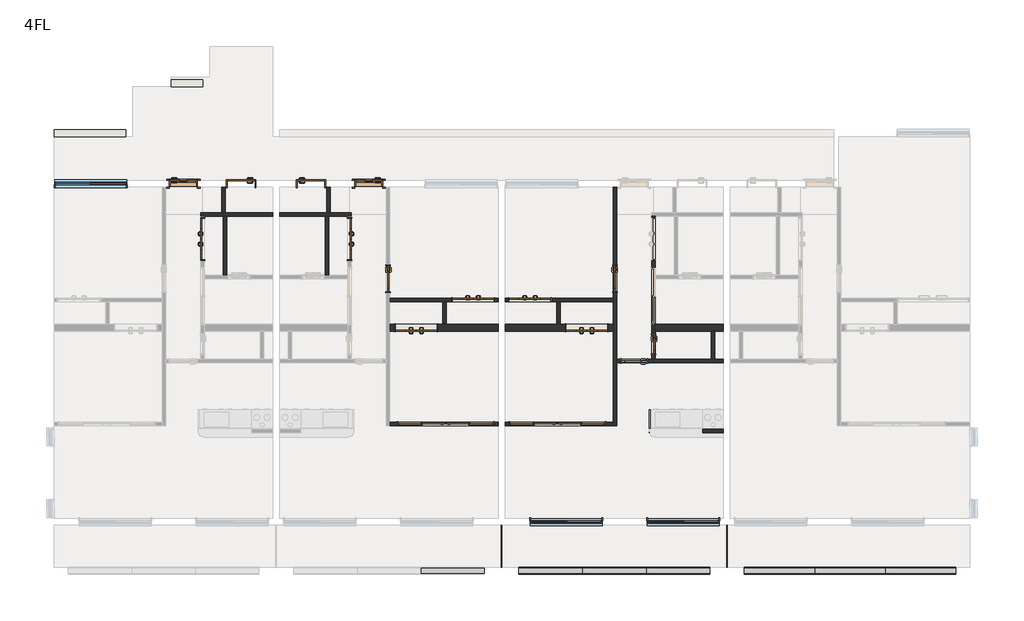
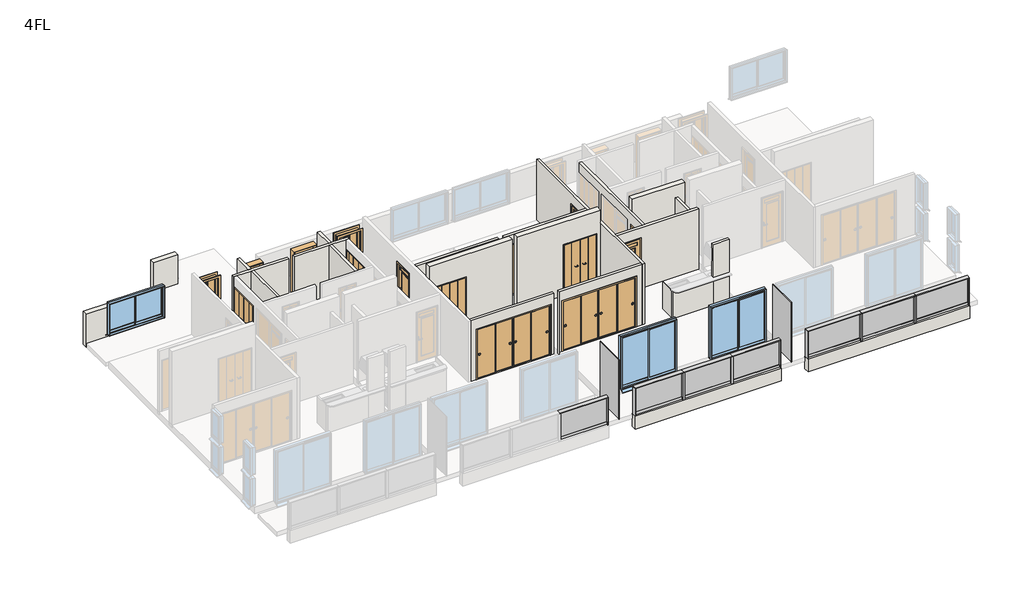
# One storey, part 2 of 3: 26 walls, 16 doors, 16 members, 9 plates, 3 windows.
"""IFC4 building model written with IfcOpenShell, lengths in millimetres."""

from ifc_helpers import new_model, si_unit, frame, origin, place, context, project, spatial, polyline, outline, extrude, faceted_brep, transform, mapped, element, save
from components import door_800x2000_a7d1584b, door_800x2000_010bfebf, w1200h2000_6a144d60, w1200h2000_98cacc9b, w1200h2000_99d19fb3, w1200h2000_ebe1d490, w2800h2000_670b855b, w2800h2000_04aa64cd, w600h2000_7f2747f4, w800h2000_1d97c4d4, w800h2000_13e9f519, w800h2000_ccb03061, w800h2000_0ab7d42c, member_25x150_3f8205e2, member_25x150_f694351b, member_25x150_e95393f9, member_70x150_851c8a9b, plate_9f48129f, plate_365944b3, plate_b830f844, plate_2f85ae4c, plate_cef4847d, window_2000x1200_fc91d1cf, window_2000x2000_f1ff98da

model = new_model("IFC4")

# Units and contexts
model_context = context("Model", 3, world=origin())
ifc_project = project(units=[si_unit("LENGTHUNIT", "METRE", prefix="MILLI")], contexts=[model_context])

# Site, building, storey
site = spatial("IfcSite", under=ifc_project)
building = spatial("IfcBuilding", under=site)
storey = spatial("IfcBuildingStorey", under=building, Name="4FL", Elevation=10000.0)

# Doors
placement = place(None, origin())
door_800x2000_shape = door_800x2000_a7d1584b(model_context)
element("IfcDoor", 1, ObjectType="片開き3 : 800x2000", at=placement, inside=storey, context=model_context, shape_type="MappedRepresentation", body=[
    mapped(door_800x2000_shape, transform((-7378.7187246, -5700.1171638, 10000.0), x_axis=(1.0, 0.0, 0.0), y_axis=(0.0, 1.0, 0.0), z_axis=(0.0, 0.0, 1.0))),
])
door_800x2000_2_shape = door_800x2000_010bfebf(model_context)
element("IfcDoor", 2, ObjectType="片開き3 : 800x2000", at=placement, inside=storey, context=model_context, shape_type="MappedRepresentation", body=[
    mapped(door_800x2000_2_shape, transform((-2078.7187246, -5700.1171638, 10000.0), x_axis=(-1.0, 0.0, 0.0), y_axis=(0.0, -1.0, 0.0), z_axis=(0.0, 0.0, 1.0))),
])
w1200h2000_shape = w1200h2000_6a144d60(model_context)
element("IfcDoor", 3, ObjectType="木製折戸 : w1200h2000", at=placement, inside=storey, context=model_context, shape_type="MappedRepresentation", body=[
    mapped(w1200h2000_shape, transform((-6828.7187246, -7280.1171638, 10100.0), x_axis=(0.0, 1.0, 0.0), y_axis=(-1.0, 0.0, 0.0), z_axis=(0.0, 0.0, 1.0))),
])
element("IfcDoor", 4, ObjectType="木製折戸 : w1200h2000", at=placement, inside=storey, context=model_context, shape_type="MappedRepresentation", body=[
    mapped(w1200h2000_shape, transform((2533.7812754, -9020.1171638, 10100.0), x_axis=(1.0, 0.0, 0.0), y_axis=(0.0, 1.0, 0.0), z_axis=(0.0, 0.0, 1.0))),
])
w1200h2000_2_shape = w1200h2000_98cacc9b(model_context)
element("IfcDoor", 5, ObjectType="木製折戸 : w1200h2000", at=placement, inside=storey, context=model_context, shape_type="MappedRepresentation", body=[
    mapped(w1200h2000_2_shape, transform((4158.7812754, -9820.1171638, 10100.0), x_axis=(-1.0, 0.0, 0.0), y_axis=(0.0, -1.0, 0.0), z_axis=(0.0, 0.0, 1.0))),
])
w1200h2000_3_shape = w1200h2000_99d19fb3(model_context)
element("IfcDoor", 6, ObjectType="木製折戸 : w1200h2000", at=placement, inside=storey, context=model_context, shape_type="MappedRepresentation", body=[
    mapped(w1200h2000_3_shape, transform((908.7812754, -9020.1171638, 10100.0), x_axis=(-1.0, 0.0, 0.0), y_axis=(0.0, -1.0, 0.0), z_axis=(0.0, 0.0, 1.0))),
])
element("IfcDoor", 7, ObjectType="木製折戸 : w1200h2000", at=placement, inside=storey, context=model_context, shape_type="MappedRepresentation", body=[
    mapped(w1200h2000_3_shape, transform((-2628.7187246, -7280.1171638, 10100.0), x_axis=(0.0, 1.0, 0.0), y_axis=(-1.0, 0.0, 0.0), z_axis=(0.0, 0.0, 1.0))),
])
w1200h2000_4_shape = w1200h2000_ebe1d490(model_context)
element("IfcDoor", 8, ObjectType="木製折戸 : w1200h2000", at=placement, inside=storey, context=model_context, shape_type="MappedRepresentation", body=[
    mapped(w1200h2000_4_shape, transform((-716.2187246, -9820.1171638, 10100.0), x_axis=(1.0, 0.0, 0.0), y_axis=(0.0, 1.0, 0.0), z_axis=(0.0, 0.0, 1.0))),
])
w2800h2000_shape = w2800h2000_670b855b(model_context)
element("IfcDoor", 9, ObjectType="引違い 4 枚 2 溝_襖 : w2800h2000", at=placement, inside=storey, context=model_context, shape_type="MappedRepresentation", body=[
    mapped(w2800h2000_shape, transform((3315.7457714, -12570.1171638, 10100.0), x_axis=(-1.0, 0.0, 0.0), y_axis=(0.0, -1.0, 0.0), z_axis=(0.0, 0.0, 1.0))),
])
w2800h2000_2_shape = w2800h2000_04aa64cd(model_context)
element("IfcDoor", 10, ObjectType="引違い 4 枚 2 溝_襖 : w2800h2000", at=placement, inside=storey, context=model_context, shape_type="MappedRepresentation", body=[
    mapped(w2800h2000_2_shape, transform((126.8167793, -12570.1171638, 10100.0), x_axis=(1.0, 0.0, 0.0), y_axis=(0.0, 1.0, 0.0), z_axis=(0.0, 0.0, 1.0))),
])
w600h2000_shape = w600h2000_7f2747f4(model_context)
element("IfcDoor", 11, ObjectType="片開戸CL2058 : w600h2000", at=placement, inside=storey, context=model_context, shape_type="MappedRepresentation", body=[
    mapped(w600h2000_shape, transform((6071.2812754, -10295.1171638, 10100.0), x_axis=(0.0, -1.0, 0.0), y_axis=(1.0, 0.0, 0.0), z_axis=(0.0, 0.0, 1.0))),
])
w800h2000_shape = w800h2000_1d97c4d4(model_context)
element("IfcDoor", 12, ObjectType="片開 : w800h2000", at=placement, inside=storey, context=model_context, shape_type="MappedRepresentation", body=[
    mapped(w800h2000_shape, transform((-5728.7187246, -5700.1171638, 10000.0), x_axis=(-1.0, 0.0, 0.0), y_axis=(0.0, -1.0, 0.0), z_axis=(0.0, 0.0, 1.0))),
])
w800h2000_2_shape = w800h2000_13e9f519(model_context)
element("IfcDoor", 13, ObjectType="片開戸CL2058 : w800h2000", at=placement, inside=storey, context=model_context, shape_type="MappedRepresentation", body=[
    mapped(w800h2000_2_shape, transform((4971.2812754, -8420.1171638, 10100.0), x_axis=(0.0, -1.0, 0.0), y_axis=(1.0, 0.0, 0.0), z_axis=(0.0, 0.0, 1.0))),
])
w800h2000_3_shape = w800h2000_ccb03061(model_context)
element("IfcDoor", 14, ObjectType="片開戸CL2058 : w800h2000", at=placement, inside=storey, context=model_context, shape_type="MappedRepresentation", body=[
    mapped(w800h2000_3_shape, transform((-1528.7187246, -8420.1171638, 10100.0), x_axis=(0.0, -1.0, 0.0), y_axis=(1.0, 0.0, 0.0), z_axis=(0.0, 0.0, 1.0))),
])
element("IfcDoor", 15, ObjectType="片開戸CL2058 : w800h2000", at=placement, inside=storey, context=model_context, shape_type="MappedRepresentation", body=[
    mapped(w800h2000_3_shape, transform((5521.2812754, -10770.1171638, 10100.0), x_axis=(-1.0, 0.0, 0.0), y_axis=(0.0, -1.0, 0.0), z_axis=(0.0, 0.0, 1.0))),
])
w800h2000_4_shape = w800h2000_0ab7d42c(model_context)
element("IfcDoor", 16, ObjectType="片開 : w800h2000", at=placement, inside=storey, context=model_context, shape_type="MappedRepresentation", body=[
    mapped(w800h2000_4_shape, transform((-3728.7187246, -5700.1171638, 10000.0), x_axis=(1.0, 0.0, 0.0), y_axis=(0.0, 1.0, 0.0), z_axis=(0.0, 0.0, 1.0))),
])

# Members
member_25x150_shape = member_25x150_3f8205e2(model_context)
element("IfcMember", 17, ObjectType="長方形のマリオン : 25x150", at=placement, inside=storey, context=model_context, shape_type="MappedRepresentation", body=[
    mapped(member_25x150_shape, transform((1221.2812754, -16770.1171638, 10000.0), x_axis=(1.0, 0.0, 0.0), y_axis=(0.0, -1.0, 0.0), z_axis=(0.0, 0.0, -1.0))),
])
element("IfcMember", 18, ObjectType="長方形のマリオン : 25x150", at=placement, inside=storey, context=model_context, shape_type="MappedRepresentation", body=[
    mapped(member_25x150_shape, transform((7671.2812754, -16770.1171638, 10000.0), x_axis=(1.0, 0.0, 0.0), y_axis=(0.0, -1.0, 0.0), z_axis=(0.0, 0.0, -1.0))),
])
element("IfcMember", 19, ObjectType="長方形のマリオン : 25x150", at=placement, inside=storey, context=model_context, shape_type="MappedRepresentation", body=[
    mapped(member_25x150_shape, transform((14721.2812754, -16770.1171638, 10000.0), x_axis=(1.0, 0.0, 0.0), y_axis=(0.0, -1.0, 0.0), z_axis=(0.0, 0.0, -1.0))),
])
element("IfcMember", 20, ObjectType="長方形のマリオン : 25x150", at=placement, inside=storey, context=model_context, shape_type="MappedRepresentation", body=[
    mapped(member_25x150_shape, transform((2221.2812754, -16770.1171638, 11075.0), x_axis=(-1.0, 0.0, 0.0), y_axis=(0.0, -1.0, 0.0), z_axis=(0.0, 0.0, 1.0))),
])
element("IfcMember", 21, ObjectType="長方形のマリオン : 25x150", at=placement, inside=storey, context=model_context, shape_type="MappedRepresentation", body=[
    mapped(member_25x150_shape, transform((8671.2812754, -16770.1171638, 11075.0), x_axis=(-1.0, 0.0, 0.0), y_axis=(0.0, -1.0, 0.0), z_axis=(0.0, 0.0, 1.0))),
])
member_25x150_2_shape = member_25x150_f694351b(model_context)
element("IfcMember", 22, ObjectType="長方形のマリオン : 25x150", at=placement, inside=storey, context=model_context, shape_type="MappedRepresentation", body=[
    mapped(member_25x150_2_shape, transform((1221.2812754, -16770.1171638, 11100.0), x_axis=(0.0, 0.0, 1.0), y_axis=(0.0, -1.0, 0.0), z_axis=(1.0, 0.0, 0.0))),
])
element("IfcMember", 23, ObjectType="長方形のマリオン : 25x150", at=placement, inside=storey, context=model_context, shape_type="MappedRepresentation", body=[
    mapped(member_25x150_2_shape, transform((7671.2812754, -16770.1171638, 11100.0), x_axis=(0.0, 0.0, 1.0), y_axis=(0.0, -1.0, 0.0), z_axis=(1.0, 0.0, 0.0))),
])
element("IfcMember", 24, ObjectType="長方形のマリオン : 25x150", at=placement, inside=storey, context=model_context, shape_type="MappedRepresentation", body=[
    mapped(member_25x150_2_shape, transform((4037.947942, -16770.1171638, 11100.0), x_axis=(0.0, 0.0, 1.0), y_axis=(0.0, -1.0, 0.0), z_axis=(1.0, 0.0, 0.0))),
])
element("IfcMember", 25, ObjectType="長方形のマリオン : 25x150", at=placement, inside=storey, context=model_context, shape_type="MappedRepresentation", body=[
    mapped(member_25x150_2_shape, transform((5854.6146087, -16770.1171638, 11100.0), x_axis=(0.0, 0.0, 1.0), y_axis=(0.0, -1.0, 0.0), z_axis=(1.0, 0.0, 0.0))),
])
member_25x150_3_shape = member_25x150_e95393f9(model_context)
element("IfcMember", 26, ObjectType="長方形のマリオン : 25x150", at=placement, inside=storey, context=model_context, shape_type="MappedRepresentation", body=[
    mapped(member_25x150_3_shape, transform((14721.2812754, -16770.1171638, 11100.0), x_axis=(0.0, 0.0, 1.0), y_axis=(0.0, -1.0, 0.0), z_axis=(1.0, 0.0, 0.0))),
])
element("IfcMember", 27, ObjectType="長方形のマリオン : 25x150", at=placement, inside=storey, context=model_context, shape_type="MappedRepresentation", body=[
    mapped(member_25x150_3_shape, transform((10687.947942, -16770.1171638, 11100.0), x_axis=(0.0, 0.0, 1.0), y_axis=(0.0, -1.0, 0.0), z_axis=(1.0, 0.0, 0.0))),
])
element("IfcMember", 28, ObjectType="長方形のマリオン : 25x150", at=placement, inside=storey, context=model_context, shape_type="MappedRepresentation", body=[
    mapped(member_25x150_3_shape, transform((12704.6146087, -16770.1171638, 11100.0), x_axis=(0.0, 0.0, 1.0), y_axis=(0.0, -1.0, 0.0), z_axis=(1.0, 0.0, 0.0))),
])
member_70x150_shape = member_70x150_851c8a9b(model_context)
element("IfcMember", 29, ObjectType="長方形のマリオン : 70x150", at=placement, inside=storey, context=model_context, shape_type="MappedRepresentation", body=[
    mapped(member_70x150_shape, transform((4037.947942, -16770.1171638, 10000.0), x_axis=(1.0, 0.0, 0.0), y_axis=(0.0, -1.0, 0.0), z_axis=(0.0, 0.0, -1.0))),
])
element("IfcMember", 30, ObjectType="長方形のマリオン : 70x150", at=placement, inside=storey, context=model_context, shape_type="MappedRepresentation", body=[
    mapped(member_70x150_shape, transform((5854.6146087, -16770.1171638, 10000.0), x_axis=(1.0, 0.0, 0.0), y_axis=(0.0, -1.0, 0.0), z_axis=(0.0, 0.0, -1.0))),
])
element("IfcMember", 31, ObjectType="長方形のマリオン : 70x150", at=placement, inside=storey, context=model_context, shape_type="MappedRepresentation", body=[
    mapped(member_70x150_shape, transform((10687.947942, -16770.1171638, 10000.0), x_axis=(1.0, 0.0, 0.0), y_axis=(0.0, -1.0, 0.0), z_axis=(0.0, 0.0, -1.0))),
])
element("IfcMember", 32, ObjectType="長方形のマリオン : 70x150", at=placement, inside=storey, context=model_context, shape_type="MappedRepresentation", body=[
    mapped(member_70x150_shape, transform((12704.6146087, -16770.1171638, 10000.0), x_axis=(1.0, 0.0, 0.0), y_axis=(0.0, -1.0, 0.0), z_axis=(0.0, 0.0, -1.0))),
])

# Plates
plate_shape = plate_9f48129f(model_context)
element("IfcPlate", 33, ObjectType="r パネル FIX 下框付 : 框 H100", at=placement, inside=storey, context=model_context, shape_type="MappedRepresentation", body=[
    mapped(plate_shape, transform((317.947942, -16770.1171638, 10000.0), x_axis=(1.0, 0.0, 0.0), y_axis=(0.0, 1.0, 0.0), z_axis=(0.0, 0.0, 1.0))),
])
element("IfcPlate", 34, ObjectType="r パネル FIX 下框付 : 框 H100", at=placement, inside=storey, context=model_context, shape_type="MappedRepresentation", body=[
    mapped(plate_shape, transform((3124.6146087, -16770.1171638, 10000.0), x_axis=(1.0, 0.0, 0.0), y_axis=(0.0, 1.0, 0.0), z_axis=(0.0, 0.0, 1.0))),
])
element("IfcPlate", 35, ObjectType="r パネル FIX 下框付 : 框 H100", at=placement, inside=storey, context=model_context, shape_type="MappedRepresentation", body=[
    mapped(plate_shape, transform((6767.947942, -16770.1171638, 10000.0), x_axis=(1.0, 0.0, 0.0), y_axis=(0.0, 1.0, 0.0), z_axis=(0.0, 0.0, 1.0))),
])
plate_2_shape = plate_365944b3(model_context)
element("IfcPlate", 36, ObjectType="r パネル FIX 下框付 : 框 H100", at=placement, inside=storey, context=model_context, shape_type="MappedRepresentation", body=[
    mapped(plate_2_shape, transform((4946.2812754, -16770.1171638, 10000.0), x_axis=(1.0, 0.0, 0.0), y_axis=(0.0, 1.0, 0.0), z_axis=(0.0, 0.0, 1.0))),
])
plate_3_shape = plate_b830f844(model_context)
element("IfcPlate", 37, ObjectType="r パネル FIX 下框付 : 框 H100", at=placement, inside=storey, context=model_context, shape_type="MappedRepresentation", body=[
    mapped(plate_3_shape, transform((9674.6146087, -16770.1171638, 10000.0), x_axis=(1.0, 0.0, 0.0), y_axis=(0.0, 1.0, 0.0), z_axis=(0.0, 0.0, 1.0))),
])
element("IfcPlate", 38, ObjectType="r パネル FIX 下框付 : 框 H100", at=placement, inside=storey, context=model_context, shape_type="MappedRepresentation", body=[
    mapped(plate_3_shape, transform((13717.947942, -16770.1171638, 10000.0), x_axis=(1.0, 0.0, 0.0), y_axis=(0.0, 1.0, 0.0), z_axis=(0.0, 0.0, 1.0))),
])
plate_4_shape = plate_2f85ae4c(model_context)
element("IfcPlate", 39, ObjectType="r パネル FIX 下框付 : 框 H100", at=placement, inside=storey, context=model_context, shape_type="MappedRepresentation", body=[
    mapped(plate_4_shape, transform((11696.2812754, -16770.1171638, 10000.0), x_axis=(1.0, 0.0, 0.0), y_axis=(0.0, 1.0, 0.0), z_axis=(0.0, 0.0, 1.0))),
])
plate_5_shape = plate_cef4847d(model_context)
element("IfcPlate", 40, ObjectType="システム パネル : 標準", at=placement, inside=storey, context=model_context, shape_type="MappedRepresentation", body=[
    mapped(plate_5_shape, transform((1721.2812754, -16070.1171638, 9950.0), x_axis=(0.0, -1.0, 0.0), y_axis=(1.0, 0.0, 0.0), z_axis=(0.0, 0.0, 1.0))),
])
element("IfcPlate", 41, ObjectType="システム パネル : 標準", at=placement, inside=storey, context=model_context, shape_type="MappedRepresentation", body=[
    mapped(plate_5_shape, transform((8171.2812754, -16070.1171638, 9950.0), x_axis=(0.0, -1.0, 0.0), y_axis=(1.0, 0.0, 0.0), z_axis=(0.0, 0.0, 1.0))),
])

# Walls
element("IfcWall", 42, ObjectType="(R)RC200", at=placement, inside=storey, context=model_context, shape_type="Brep", body=[
    faceted_brep([(1621.2812754, -9720.1171638, 10000.0), (146.2812754, -9720.1171638, 10000.0), (46.2812754, -9720.1171638, 10000.0), (-1478.7187246, -9720.1171638, 10000.0), (-1478.7187246, -9720.1171638, 13000.0), (1621.2812754, -9720.1171638, 13000.0), (-96.2187246, -9720.1171638, 12120.0), (-1336.2187246, -9720.1171638, 12120.0), (-1336.2187246, -9720.1171638, 10100.0), (-96.2187246, -9720.1171638, 10100.0), (1621.2812754, -9920.1171638, 10000.0), (1621.2812754, -9920.1171638, 13000.0), (-1478.7187246, -9920.1171638, 13000.0), (-1478.7187246, -9920.1171638, 10000.0), (-96.2187246, -9920.1171638, 12120.0), (-96.2187246, -9920.1171638, 10100.0), (-1336.2187246, -9920.1171638, 10100.0), (-1336.2187246, -9920.1171638, 12120.0)], [[[0, 1, 2, 3, 4, 5], [6, 7, 8, 9]], [[10, 11, 12, 13], [14, 15, 16, 17]], [[3, 2, 1, 0, 10, 13]], [[5, 4, 12, 11]], [[4, 3, 13, 12]], [[15, 14, 6, 9]], [[16, 15, 9, 8]], [[17, 16, 8, 7]], [[14, 17, 7, 6]], [[0, 5, 11, 10]]]),
])
element("IfcWall", 43, ObjectType="(R)RC200", at=placement, inside=storey, context=model_context, shape_type="Brep", body=[
    faceted_brep([(1821.2812754, -9920.1171638, 10000.0), (4921.2812754, -9920.1171638, 10000.0), (4921.2812754, -9920.1171638, 13000.0), (1821.2812754, -9920.1171638, 13000.0), (3538.7812754, -9920.1171638, 12120.0), (4778.7812754, -9920.1171638, 12120.0), (4778.7812754, -9920.1171638, 10100.0), (3538.7812754, -9920.1171638, 10100.0), (1821.2812754, -9720.1171638, 10000.0), (1821.2812754, -9720.1171638, 13000.0), (4921.2812754, -9720.1171638, 13000.0), (4921.2812754, -9720.1171638, 10000.0), (3396.2812754, -9720.1171638, 10000.0), (3296.2812754, -9720.1171638, 10000.0), (3538.7812754, -9720.1171638, 12120.0), (3538.7812754, -9720.1171638, 10100.0), (4778.7812754, -9720.1171638, 10100.0), (4778.7812754, -9720.1171638, 12120.0)], [[[0, 1, 2, 3], [4, 5, 6, 7]], [[8, 9, 10, 11, 12, 13], [14, 15, 16, 17]], [[1, 0, 8, 13, 12, 11]], [[3, 2, 10, 9]], [[2, 1, 11, 10]], [[15, 14, 4, 7]], [[16, 15, 7, 6]], [[17, 16, 6, 5]], [[14, 17, 5, 4]], [[0, 3, 9, 8]]]),
])
element("IfcWall", 44, ObjectType="(R)RC200", at=placement, inside=storey, context=model_context, shape_type="Brep", body=[
    faceted_brep([(6121.2812754, -9920.1171638, 10000.0), (7721.2812754, -9920.1171638, 10000.0), (7821.2812754, -9920.1171638, 10000.0), (8071.2812754, -9920.1171638, 10000.0), (8071.2812754, -9920.1171638, 13000.0), (6121.2812754, -9920.1171638, 13000.0), (6121.2812754, -9720.1171638, 10000.0), (6121.2812754, -9720.1171638, 13000.0), (8071.2812754, -9720.1171638, 13000.0), (8071.2812754, -9720.1171638, 10000.0)], [[[0, 1, 2, 3, 4, 5]], [[6, 7, 8, 9]], [[3, 2, 1, 0, 6, 9]], [[5, 4, 8, 7]], [[0, 5, 7, 6]], [[4, 3, 9, 8]]]),
])
element("IfcWall", 45, ObjectType="(R)RC200", at=placement, inside=storey, context=model_context, shape_type="SweptSolid", body=[
    extrude(outline(polyline([(-9028.7187246, -4350.1171638), (-11078.7187246, -4350.1171638), (-11078.7187246, -4150.1171638), (-9028.7187246, -4150.1171638), (-9028.7187246, -4350.1171638)])), frame((0.0, 0.0, 9800.0), z_axis=(0.0, 0.0, 1.0), x_axis=(1.0, 0.0, 0.0)), (0.0, 0.0, 1.0), 1300.0),
])
element("IfcWall", 46, ObjectType="(R)RC200", at=placement, inside=storey, context=model_context, shape_type="SweptSolid", body=[
    extrude(outline(polyline([(7671.2812754, -16870.1171638), (2221.2812754, -16870.1171638), (2221.2812754, -16670.1171638), (7671.2812754, -16670.1171638), (7671.2812754, -16870.1171638)])), frame((0.0, 0.0, 9500.0), z_axis=(0.0, 0.0, 1.0), x_axis=(1.0, 0.0, 0.0)), (0.0, 0.0, 1.0), 500.0),
])
element("IfcWall", 47, ObjectType="(R)RC200", at=placement, inside=storey, context=model_context, shape_type="SweptSolid", body=[
    extrude(outline(polyline([(14721.2812754, -16870.1171638), (8671.2812754, -16870.1171638), (8671.2812754, -16670.1171638), (14721.2812754, -16670.1171638), (14721.2812754, -16870.1171638)])), frame((0.0, 0.0, 9500.0), z_axis=(0.0, 0.0, 1.0), x_axis=(1.0, 0.0, 0.0)), (0.0, 0.0, 1.0), 500.0),
])
element("IfcWall", 48, ObjectType="(R)RC200", at=placement, inside=storey, context=model_context, shape_type="SweptSolid", body=[
    extrude(outline(polyline([(-6828.7187246, -2920.1171638), (-7728.7187246, -2920.1171638), (-7728.7187246, -2720.1171638), (-6828.7187246, -2720.1171638), (-6828.7187246, -2920.1171638)])), frame((0.0, 0.0, 9950.0), z_axis=(0.0, 0.0, 1.0), x_axis=(1.0, 0.0, 0.0)), (0.0, 0.0, 1.0), 1150.0),
])
element("IfcWall", 49, ObjectType="(F)30", at=placement, inside=storey, context=model_context, shape_type="SweptSolid", body=[
    extrude(outline(polyline([(5948.8875596, -12720.1171638), (5948.8875596, -12165.1171638), (5978.8875596, -12165.1171638), (5978.8875596, -12720.1171638), (5948.8875596, -12720.1171638)])), frame((0.0, 0.0, 10100.0), z_axis=(0.0, 0.0, 1.0), x_axis=(1.0, 0.0, 0.0)), (0.0, 0.0, 1.0), 1060.0),
])
element("IfcWall", 50, ObjectType="(L1)LGS100", at=placement, inside=storey, context=model_context, shape_type="Brep", body=[
    faceted_brep([(-6878.7187246, -6630.1171638, 10000.0), (-6778.7187246, -6630.1171638, 10000.0), (-6238.7187246, -6630.1171638, 10000.0), (-6138.7187246, -6630.1171638, 10000.0), (-4828.7187246, -6630.1171638, 10000.0), (-4828.7187246, -6630.1171638, 12500.0), (-6138.7187246, -6630.1171638, 12500.0), (-6238.7187246, -6630.1171638, 12500.0), (-6778.7187246, -6630.1171638, 12500.0), (-6878.7187246, -6630.1171638, 12500.0), (-6878.7187246, -6530.1171638, 10000.0), (-6878.7187246, -6530.1171638, 12500.0), (-6278.7187246, -6530.1171638, 12500.0), (-6178.7187246, -6530.1171638, 12500.0), (-4828.7187246, -6530.1171638, 12500.0), (-4828.7187246, -6530.1171638, 10000.0), (-6178.7187246, -6530.1171638, 10000.0), (-6278.7187246, -6530.1171638, 10000.0)], [[[0, 1, 2, 3, 4, 5, 6, 7, 8, 9]], [[10, 11, 12, 13, 14, 15, 16, 17]], [[4, 3, 2, 1, 0, 10, 17, 16, 15]], [[9, 8, 7, 6, 5, 14, 13, 12, 11]], [[0, 9, 11, 10]], [[5, 4, 15, 14]]]),
])
element("IfcWall", 51, ObjectType="(L1)LGS100", at=placement, inside=storey, context=model_context, shape_type="SweptSolid", body=[
    extrude(outline(polyline([(-6178.7187246, -5800.1171638), (-6178.7187246, -6530.1171638), (-6278.7187246, -6530.1171638), (-6278.7187246, -5800.1171638), (-6178.7187246, -5800.1171638)])), frame((0.0, 0.0, 10000.0), z_axis=(0.0, 0.0, 1.0), x_axis=(1.0, 0.0, 0.0)), (0.0, 0.0, 1.0), 2500.0),
])
element("IfcWall", 52, ObjectType="(L1)LGS100", at=placement, inside=storey, context=model_context, shape_type="SweptSolid", body=[
    extrude(outline(polyline([(-6138.7187246, -6630.1171638), (-6138.7187246, -8320.1171638), (-6238.7187246, -8320.1171638), (-6238.7187246, -6630.1171638), (-6138.7187246, -6630.1171638)])), frame((0.0, 0.0, 10000.0), z_axis=(0.0, 0.0, 1.0), x_axis=(1.0, 0.0, 0.0)), (0.0, 0.0, 1.0), 2500.0),
])
element("IfcWall", 53, ObjectType="(L1)LGS100", at=placement, inside=storey, context=model_context, shape_type="Brep", body=[
    faceted_brep([(1621.2812754, -8970.1171638, 10000.0), (-1478.7187246, -8970.1171638, 10000.0), (-1478.7187246, -8970.1171638, 12500.0), (1621.2812754, -8970.1171638, 12500.0), (288.7812754, -8970.1171638, 12120.0), (288.7812754, -8970.1171638, 10100.0), (1528.7812754, -8970.1171638, 10100.0), (1528.7812754, -8970.1171638, 12120.0), (-1478.7187246, -9070.1171638, 10000.0), (46.2812754, -9070.1171638, 10000.0), (146.2812754, -9070.1171638, 10000.0), (1621.2812754, -9070.1171638, 10000.0), (1621.2812754, -9070.1171638, 12500.0), (146.2812754, -9070.1171638, 12500.0), (46.2812754, -9070.1171638, 12500.0), (-1478.7187246, -9070.1171638, 12500.0), (288.7812754, -9070.1171638, 10100.0), (288.7812754, -9070.1171638, 12120.0), (1528.7812754, -9070.1171638, 12120.0), (1528.7812754, -9070.1171638, 10100.0)], [[[0, 1, 2, 3], [4, 5, 6, 7]], [[8, 9, 10, 11, 12, 13, 14, 15], [16, 17, 18, 19]], [[1, 0, 11, 10, 9, 8]], [[3, 2, 15, 14, 13, 12]], [[2, 1, 8, 15]], [[4, 17, 16, 5]], [[5, 16, 19, 6]], [[17, 4, 7, 18]], [[18, 7, 6, 19]], [[0, 3, 12, 11]]]),
])
element("IfcWall", 54, ObjectType="(L1)LGS100", at=placement, inside=storey, context=model_context, shape_type="SweptSolid", body=[
    extrude(outline(polyline([(146.2812754, -9070.1171638), (146.2812754, -9720.1171638), (46.2812754, -9720.1171638), (46.2812754, -9070.1171638), (146.2812754, -9070.1171638)])), frame((0.0, 0.0, 10000.0), z_axis=(0.0, 0.0, 1.0), x_axis=(1.0, 0.0, 0.0)), (0.0, 0.0, 1.0), 2500.0),
])
element("IfcWall", 55, ObjectType="(L1)LGS100", at=placement, inside=storey, context=model_context, shape_type="Brep", body=[
    faceted_brep([(-2578.7187246, -6530.1171638, 10000.0), (-3178.7187246, -6530.1171638, 10000.0), (-3278.7187246, -6530.1171638, 10000.0), (-4628.7187246, -6530.1171638, 10000.0), (-4628.7187246, -6530.1171638, 12500.0), (-3278.7187246, -6530.1171638, 12500.0), (-3178.7187246, -6530.1171638, 12500.0), (-2578.7187246, -6530.1171638, 12500.0), (-2578.7187246, -6630.1171638, 10000.0), (-2578.7187246, -6630.1171638, 12500.0), (-2678.7187246, -6630.1171638, 12500.0), (-3218.7187246, -6630.1171638, 12500.0), (-3318.7187246, -6630.1171638, 12500.0), (-4628.7187246, -6630.1171638, 12500.0), (-4628.7187246, -6630.1171638, 10000.0), (-3318.7187246, -6630.1171638, 10000.0), (-3218.7187246, -6630.1171638, 10000.0), (-2678.7187246, -6630.1171638, 10000.0)], [[[0, 1, 2, 3, 4, 5, 6, 7]], [[8, 9, 10, 11, 12, 13, 14, 15, 16, 17]], [[3, 2, 1, 0, 8, 17, 16, 15, 14]], [[7, 6, 5, 4, 13, 12, 11, 10, 9]], [[0, 7, 9, 8]], [[4, 3, 14, 13]]]),
])
element("IfcWall", 56, ObjectType="(L1)LGS100", at=placement, inside=storey, context=model_context, shape_type="SweptSolid", body=[
    extrude(outline(polyline([(-3178.7187246, -5800.1171638), (-3178.7187246, -6530.1171638), (-3278.7187246, -6530.1171638), (-3278.7187246, -5800.1171638), (-3178.7187246, -5800.1171638)])), frame((0.0, 0.0, 10000.0), z_axis=(0.0, 0.0, 1.0), x_axis=(1.0, 0.0, 0.0)), (0.0, 0.0, 1.0), 2500.0),
])
element("IfcWall", 57, ObjectType="(L1)LGS100", at=placement, inside=storey, context=model_context, shape_type="SweptSolid", body=[
    extrude(outline(polyline([(-3218.7187246, -6630.1171638), (-3218.7187246, -8320.1171638), (-3318.7187246, -8320.1171638), (-3318.7187246, -6630.1171638), (-3218.7187246, -6630.1171638)])), frame((0.0, 0.0, 10000.0), z_axis=(0.0, 0.0, 1.0), x_axis=(1.0, 0.0, 0.0)), (0.0, 0.0, 1.0), 2500.0),
])
element("IfcWall", 58, ObjectType="(L1)LGS100", at=placement, inside=storey, context=model_context, shape_type="SweptSolid", body=[
    extrude(outline(polyline([(10000.0, 1621.2812754), (12500.0, 1621.2812754), (12500.0, -1478.7187246), (10000.0, -1478.7187246), (10000.0, 1621.2812754)]), holes=[polyline([(12100.0, 1521.2812754), (10100.0, 1521.2812754), (10100.0, -1278.7187246), (12100.0, -1278.7187246), (12100.0, 1521.2812754)])]), frame((0.0, -12620.1171638, 0.0), z_axis=(0.0, 1.0, 0.0), x_axis=(0.0, 0.0, 1.0)), (0.0, 0.0, 1.0), 100.0),
])
element("IfcWall", 59, ObjectType="(L1)LGS100", at=placement, inside=storey, context=model_context, shape_type="Brep", body=[
    faceted_brep([(1821.2812754, -9070.1171638, 10000.0), (3296.2812754, -9070.1171638, 10000.0), (3396.2812754, -9070.1171638, 10000.0), (4921.2812754, -9070.1171638, 10000.0), (4921.2812754, -9070.1171638, 12500.0), (3396.2812754, -9070.1171638, 12500.0), (3296.2812754, -9070.1171638, 12500.0), (1821.2812754, -9070.1171638, 12500.0), (3153.7812754, -9070.1171638, 12120.0), (3153.7812754, -9070.1171638, 10100.0), (1913.7812754, -9070.1171638, 10100.0), (1913.7812754, -9070.1171638, 12120.0), (4921.2812754, -8970.1171638, 10000.0), (1821.2812754, -8970.1171638, 10000.0), (1821.2812754, -8970.1171638, 12500.0), (4921.2812754, -8970.1171638, 12500.0), (3153.7812754, -8970.1171638, 10100.0), (3153.7812754, -8970.1171638, 12120.0), (1913.7812754, -8970.1171638, 12120.0), (1913.7812754, -8970.1171638, 10100.0)], [[[0, 1, 2, 3, 4, 5, 6, 7], [8, 9, 10, 11]], [[12, 13, 14, 15], [16, 17, 18, 19]], [[3, 2, 1, 0, 13, 12]], [[7, 6, 5, 4, 15, 14]], [[4, 3, 12, 15]], [[8, 17, 16, 9]], [[9, 16, 19, 10]], [[17, 8, 11, 18]], [[18, 11, 10, 19]], [[0, 7, 14, 13]]]),
])
element("IfcWall", 60, ObjectType="(L1)LGS100", at=placement, inside=storey, context=model_context, shape_type="SweptSolid", body=[
    extrude(outline(polyline([(3396.2812754, -9070.1171638), (3396.2812754, -9720.1171638), (3296.2812754, -9720.1171638), (3296.2812754, -9070.1171638), (3396.2812754, -9070.1171638)])), frame((0.0, 0.0, 10000.0), z_axis=(0.0, 0.0, 1.0), x_axis=(1.0, 0.0, 0.0)), (0.0, 0.0, 1.0), 2500.0),
])
element("IfcWall", 61, ObjectType="(L1)LGS100", at=placement, inside=storey, context=model_context, shape_type="Brep", body=[
    faceted_brep([(5021.2812754, -12620.1171638, 10000.0), (5021.2812754, -10820.1171638, 10000.0), (5021.2812754, -10720.1171638, 10000.0), (5021.2812754, -5800.1171638, 10000.0), (5021.2812754, -5800.1171638, 12500.0), (5021.2812754, -10720.1171638, 12500.0), (5021.2812754, -10820.1171638, 12500.0), (5021.2812754, -12620.1171638, 12500.0), (5021.2812754, -8820.1171638, 10100.0), (5021.2812754, -8820.1171638, 12100.0), (5021.2812754, -8020.1171638, 12100.0), (5021.2812754, -8020.1171638, 10100.0), (4921.2812754, -12620.1171638, 10000.0), (4921.2812754, -12620.1171638, 12500.0), (4921.2812754, -12520.1171638, 12500.0), (4921.2812754, -9070.1171638, 12500.0), (4921.2812754, -8970.1171638, 12500.0), (4921.2812754, -5800.1171638, 12500.0), (4921.2812754, -5800.1171638, 10000.0), (4921.2812754, -8970.1171638, 10000.0), (4921.2812754, -9070.1171638, 10000.0), (4921.2812754, -9720.1171638, 10000.0), (4921.2812754, -9920.1171638, 10000.0), (4921.2812754, -12520.1171638, 10000.0), (4921.2812754, -8820.1171638, 10100.0), (4921.2812754, -8020.1171638, 10100.0), (4921.2812754, -8020.1171638, 12100.0), (4921.2812754, -8820.1171638, 12100.0)], [[[0, 1, 2, 3, 4, 5, 6, 7], [8, 9, 10, 11]], [[12, 13, 14, 15, 16, 17, 18, 19, 20, 21, 22, 23], [24, 25, 26, 27]], [[3, 2, 1, 0, 12, 23, 22, 21, 20, 19, 18]], [[7, 6, 5, 4, 17, 16, 15, 14, 13]], [[0, 7, 13, 12]], [[9, 8, 24, 27]], [[10, 9, 27, 26]], [[11, 10, 26, 25]], [[8, 11, 25, 24]], [[4, 3, 18, 17]]]),
])
element("IfcWall", 62, ObjectType="(L1)LGS100", at=placement, inside=storey, context=model_context, shape_type="Brep", body=[
    faceted_brep([(6121.2812754, -10720.1171638, 10000.0), (6121.2812754, -9920.1171638, 10000.0), (6121.2812754, -9720.1171638, 10000.0), (6121.2812754, -8420.1171638, 10000.0), (6121.2812754, -8320.1171638, 10000.0), (6121.2812754, -6630.1171638, 10000.0), (6121.2812754, -6630.1171638, 12500.0), (6121.2812754, -8320.1171638, 12500.0), (6121.2812754, -8420.1171638, 12500.0), (6121.2812754, -10720.1171638, 12500.0), (6121.2812754, -10595.1171638, 10100.0), (6121.2812754, -10595.1171638, 12100.0), (6121.2812754, -9995.1171638, 12100.0), (6121.2812754, -9995.1171638, 10100.0), (6121.2812754, -6660.1171638, 10100.0), (6121.2812754, -7900.1171638, 10100.0), (6121.2812754, -7900.1171638, 12120.0), (6121.2812754, -6660.1171638, 12120.0), (6121.2812754, -9745.1171638, 10100.0), (6121.2812754, -9745.1171638, 12140.0), (6121.2812754, -8095.1171638, 12140.0), (6121.2812754, -8095.1171638, 10100.0), (6021.2812754, -6630.1171638, 10000.0), (6021.2812754, -10720.1171638, 10000.0), (6021.2812754, -10720.1171638, 12500.0), (6021.2812754, -6630.1171638, 12500.0), (6021.2812754, -10595.1171638, 10100.0), (6021.2812754, -9995.1171638, 10100.0), (6021.2812754, -9995.1171638, 12100.0), (6021.2812754, -10595.1171638, 12100.0), (6021.2812754, -7900.1171638, 10100.0), (6021.2812754, -6660.1171638, 10100.0), (6021.2812754, -6660.1171638, 12120.0), (6021.2812754, -7900.1171638, 12120.0), (6021.2812754, -9745.1171638, 10100.0), (6021.2812754, -8095.1171638, 10100.0), (6021.2812754, -8095.1171638, 12140.0), (6021.2812754, -9745.1171638, 12140.0)], [[[0, 1, 2, 3, 4, 5, 6, 7, 8, 9], [10, 11, 12, 13], [14, 15, 16, 17], [18, 19, 20, 21]], [[22, 23, 24, 25], [26, 27, 28, 29], [30, 31, 32, 33], [34, 35, 36, 37]], [[5, 4, 3, 2, 1, 0, 23, 22]], [[9, 8, 7, 6, 25, 24]], [[0, 9, 24, 23]], [[11, 10, 26, 29]], [[12, 11, 29, 28]], [[13, 12, 28, 27]], [[10, 13, 27, 26]], [[14, 31, 30, 15]], [[15, 30, 33, 16]], [[16, 33, 32, 17]], [[19, 18, 34, 37]], [[20, 19, 37, 36]], [[21, 20, 36, 35]], [[18, 21, 35, 34]], [[31, 14, 17, 32]], [[6, 5, 22, 25]]]),
])
element("IfcWall", 63, ObjectType="(L1)LGS100", at=placement, inside=storey, context=model_context, shape_type="SweptSolid", body=[
    extrude(outline(polyline([(7821.2812754, -9920.1171638), (7821.2812754, -10720.1171638), (7721.2812754, -10720.1171638), (7721.2812754, -9920.1171638), (7821.2812754, -9920.1171638)])), frame((0.0, 0.0, 10000.0), z_axis=(0.0, 0.0, 1.0), x_axis=(1.0, 0.0, 0.0)), (0.0, 0.0, 1.0), 2500.0),
])
element("IfcWall", 64, ObjectType="(L1)LGS100", at=placement, inside=storey, context=model_context, shape_type="Brep", body=[
    faceted_brep([(5021.2812754, -10820.1171638, 10000.0), (8071.2812754, -10820.1171638, 10000.0), (8071.2812754, -10820.1171638, 12500.0), (5021.2812754, -10820.1171638, 12500.0), (5121.2812754, -10820.1171638, 10100.0), (5121.2812754, -10820.1171638, 12100.0), (5921.2812754, -10820.1171638, 12100.0), (5921.2812754, -10820.1171638, 10100.0), (8071.2812754, -10720.1171638, 10000.0), (7821.2812754, -10720.1171638, 10000.0), (7721.2812754, -10720.1171638, 10000.0), (6121.2812754, -10720.1171638, 10000.0), (6021.2812754, -10720.1171638, 10000.0), (5021.2812754, -10720.1171638, 10000.0), (5021.2812754, -10720.1171638, 12500.0), (6021.2812754, -10720.1171638, 12500.0), (6121.2812754, -10720.1171638, 12500.0), (7721.2812754, -10720.1171638, 12500.0), (7821.2812754, -10720.1171638, 12500.0), (8071.2812754, -10720.1171638, 12500.0), (5121.2812754, -10720.1171638, 12100.0), (5121.2812754, -10720.1171638, 10100.0), (5921.2812754, -10720.1171638, 10100.0), (5921.2812754, -10720.1171638, 12100.0)], [[[0, 1, 2, 3], [4, 5, 6, 7]], [[8, 9, 10, 11, 12, 13, 14, 15, 16, 17, 18, 19], [20, 21, 22, 23]], [[1, 0, 13, 12, 11, 10, 9, 8]], [[3, 2, 19, 18, 17, 16, 15, 14]], [[0, 3, 14, 13]], [[4, 21, 20, 5]], [[5, 20, 23, 6]], [[6, 23, 22, 7]], [[21, 4, 7, 22]], [[2, 1, 8, 19]]]),
])
element("IfcWall", 65, ObjectType="(L1)LGS100", at=placement, inside=storey, context=model_context, shape_type="SweptSolid", body=[
    extrude(outline(polyline([(10000.0, 1821.2812754), (10000.0, 4921.2812754), (12500.0, 4921.2812754), (12500.0, 1821.2812754), (10000.0, 1821.2812754)]), holes=[polyline([(12100.0, 1921.2812754), (12100.0, 4721.2812754), (10100.0, 4721.2812754), (10100.0, 1921.2812754), (12100.0, 1921.2812754)])]), frame((0.0, -12620.1171638, 0.0), z_axis=(0.0, 1.0, 0.0), x_axis=(0.0, 0.0, 1.0)), (0.0, 0.0, 1.0), 100.0),
])
element("IfcWall", 66, ObjectType="(L1)LGS100", at=placement, inside=storey, context=model_context, shape_type="Brep", body=[
    faceted_brep([(8071.2812754, -12720.1171638, 10000.0), (7471.2812754, -12720.1171638, 10000.0), (7471.2812754, -12720.1171638, 11160.0), (7471.2812754, -12720.1171638, 12500.0), (8071.2812754, -12720.1171638, 12500.0), (8071.2812754, -12820.1171638, 10000.0), (8071.2812754, -12820.1171638, 12500.0), (7471.2812754, -12820.1171638, 12500.0), (7471.2812754, -12820.1171638, 11160.0), (7471.2812754, -12820.1171638, 10000.0)], [[[0, 1, 2, 3, 4]], [[5, 6, 7, 8, 9]], [[1, 0, 5, 9]], [[3, 2, 1, 9, 8, 7]], [[4, 3, 7, 6]], [[0, 4, 6, 5]]]),
])
element("IfcWall", 67, ObjectType="(L1)LGS100", at=placement, inside=storey, context=model_context, shape_type="Brep", body=[
    faceted_brep([(5948.8875596, -12820.1171638, 10000.0), (7471.2812754, -12820.1171638, 10000.0), (7471.2812754, -12820.1171638, 11160.0), (5948.8875596, -12820.1171638, 11160.0), (5948.8875596, -12720.1171638, 10000.0), (5948.8875596, -12720.1171638, 10100.0), (5948.8875596, -12720.1171638, 11160.0), (5978.8875596, -12720.1171638, 11160.0), (7471.2812754, -12720.1171638, 11160.0), (7471.2812754, -12720.1171638, 10000.0)], [[[0, 1, 2, 3]], [[4, 5, 6, 7, 8, 9]], [[1, 0, 4, 9]], [[2, 1, 9, 8]], [[3, 2, 8, 7, 6]], [[0, 3, 6, 5, 4]]]),
])

# Windows
window_2000x1200_shape = window_2000x1200_fc91d1cf(model_context)
element("IfcWindow", 68, ObjectType="鋼製_一般枠_引違い-二枚 : 2000x1200", at=placement, inside=storey, context=model_context, shape_type="MappedRepresentation", body=[
    mapped(window_2000x1200_shape, transform((-10028.7187246, -5700.1171638, 10250.0), x_axis=(1.0, 0.0, 0.0), y_axis=(0.0, 1.0, 0.0), z_axis=(0.0, 0.0, 1.0))),
])
window_2000x2000_shape = window_2000x2000_f1ff98da(model_context)
element("IfcWindow", 69, ObjectType="鋼製_一般枠_引違い-二枚 : 2000x2000", at=placement, inside=storey, context=model_context, shape_type="MappedRepresentation", body=[
    mapped(window_2000x2000_shape, transform((3571.2812754, -15370.1171638, 9200.0), x_axis=(-1.0, 0.0, 0.0), y_axis=(0.0, -1.0, 0.0), z_axis=(0.0, 0.0, 1.0))),
])
element("IfcWindow", 70, ObjectType="鋼製_一般枠_引違い-二枚 : 2000x2000", at=placement, inside=storey, context=model_context, shape_type="MappedRepresentation", body=[
    mapped(window_2000x2000_shape, transform((6921.2812754, -15370.1171638, 9200.0), x_axis=(-1.0, 0.0, 0.0), y_axis=(0.0, -1.0, 0.0), z_axis=(0.0, 0.0, 1.0))),
])

save(model, "model.ifc")
